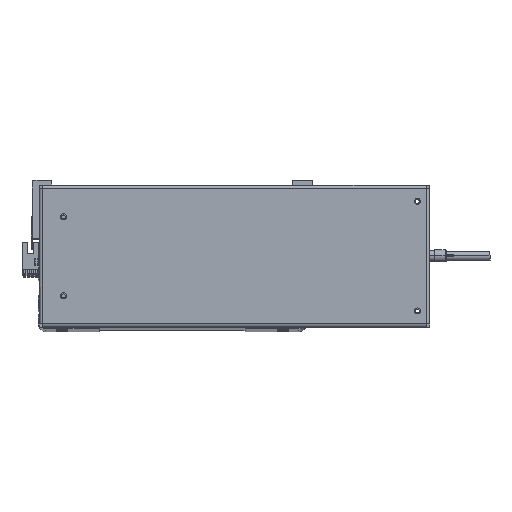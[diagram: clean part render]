
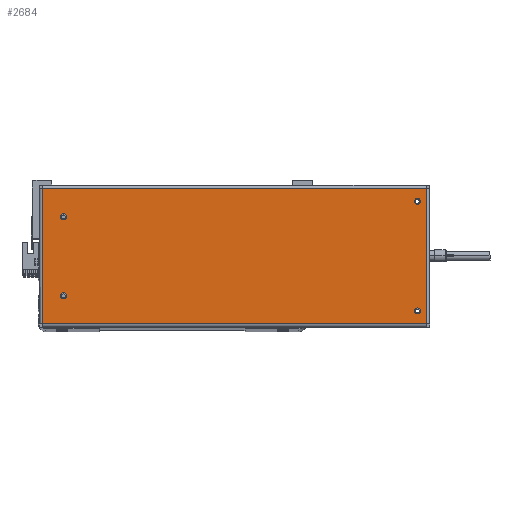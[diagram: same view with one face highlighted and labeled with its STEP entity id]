
A CAD part, top view. The second image highlights one B-rep face of the part: STEP entity #2684.
In plain terms, the highlighted planar face has unit normal (0, 0, 1).
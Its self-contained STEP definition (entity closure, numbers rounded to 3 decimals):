
#650 = VERTEX_POINT ( 'NONE', #1710 ) ;
#911 = EDGE_CURVE ( 'NONE', #33433, #9211, #18792, .T. ) ;
#1363 = EDGE_CURVE ( 'NONE', #10592, #28300, #13742, .T. ) ;
#1710 = CARTESIAN_POINT ( 'NONE',  ( 148., -45., 0. ) ) ;
#2319 = VECTOR ( 'NONE', #16149, 1000. ) ;
#2489 = CARTESIAN_POINT ( 'NONE',  ( -140.5, -32.5, 0. ) ) ;
#2684 = ADVANCED_FACE ( 'NONE', ( #23110, #14609, #5134, #38144, #20121 ), #34714, .F. ) ;
#2988 = ORIENTED_EDGE ( 'NONE', *, *, #16569, .F. ) ;
#3848 = CIRCLE ( 'NONE', #18352, 2.5 ) ;
#4073 = AXIS2_PLACEMENT_3D ( 'NONE', #14366, #33633, #36750 ) ;
#4440 = DIRECTION ( 'NONE',  ( 0., 0., 1. ) ) ;
#4638 = CARTESIAN_POINT ( 'NONE',  ( -140.5, -32.5, 0. ) ) ;
#5134 = FACE_BOUND ( 'NONE', #10259, .T. ) ;
#6297 = LINE ( 'NONE', #10223, #40783 ) ;
#6673 = CARTESIAN_POINT ( 'NONE',  ( 157.7, 58.5, 0. ) ) ;
#6766 = CIRCLE ( 'NONE', #4073, 2.5 ) ;
#7393 = CARTESIAN_POINT ( 'NONE',  ( -138., -32.5, 0. ) ) ;
#8079 = CARTESIAN_POINT ( 'NONE',  ( 150.5, 45., 0. ) ) ;
#8718 = CARTESIAN_POINT ( 'NONE',  ( -138., 32.5, 0. ) ) ;
#9036 = CARTESIAN_POINT ( 'NONE',  ( -143., -32.5, 0. ) ) ;
#9211 = VERTEX_POINT ( 'NONE', #29591 ) ;
#10223 = CARTESIAN_POINT ( 'NONE',  ( -157.6, 55.6, 0. ) ) ;
#10259 = EDGE_LOOP ( 'NONE', ( #32077, #40349 ) ) ;
#10521 = CARTESIAN_POINT ( 'NONE',  ( 148., 45., 0. ) ) ;
#10592 = VERTEX_POINT ( 'NONE', #30200 ) ;
#11452 = EDGE_LOOP ( 'NONE', ( #21698, #23680 ) ) ;
#11742 = VERTEX_POINT ( 'NONE', #19215 ) ;
#11927 = EDGE_CURVE ( 'NONE', #23518, #29620, #31830, .T. ) ;
#12212 = CARTESIAN_POINT ( 'NONE',  ( 153., -45., 0. ) ) ;
#12419 = CIRCLE ( 'NONE', #28520, 2.5 ) ;
#12468 = EDGE_CURVE ( 'NONE', #23743, #16783, #3848, .T. ) ;
#13423 = DIRECTION ( 'NONE',  ( 0., -1., 0. ) ) ;
#13742 = LINE ( 'NONE', #19217, #20239 ) ;
#14366 = CARTESIAN_POINT ( 'NONE',  ( 150.5, -45., 0. ) ) ;
#14469 = DIRECTION ( 'NONE',  ( 0., 0., 1. ) ) ;
#14609 = FACE_BOUND ( 'NONE', #11452, .T. ) ;
#14688 = CARTESIAN_POINT ( 'NONE',  ( 157.6, -55.6, 0. ) ) ;
#14746 = CARTESIAN_POINT ( 'NONE',  ( 150.5, -45., 0. ) ) ;
#16013 = ORIENTED_EDGE ( 'NONE', *, *, #18031, .T. ) ;
#16149 = DIRECTION ( 'NONE',  ( -1., 0., 0. ) ) ;
#16569 = EDGE_CURVE ( 'NONE', #11742, #26777, #35894, .T. ) ;
#16783 = VERTEX_POINT ( 'NONE', #9036 ) ;
#17132 = AXIS2_PLACEMENT_3D ( 'NONE', #8079, #30400, #36128 ) ;
#17273 = EDGE_CURVE ( 'NONE', #16783, #23743, #40861, .T. ) ;
#17456 = EDGE_LOOP ( 'NONE', ( #19655, #20192 ) ) ;
#17633 = CARTESIAN_POINT ( 'NONE',  ( -140.5, 32.5, 0. ) ) ;
#17766 = DIRECTION ( 'NONE',  ( 0., 0., 1. ) ) ;
#17856 = DIRECTION ( 'NONE',  ( 1., 0., 0. ) ) ;
#18031 = EDGE_CURVE ( 'NONE', #9211, #10592, #6297, .T. ) ;
#18352 = AXIS2_PLACEMENT_3D ( 'NONE', #4638, #20655, #17856 ) ;
#18428 = CARTESIAN_POINT ( 'NONE',  ( -143., 32.5, 0. ) ) ;
#18590 = AXIS2_PLACEMENT_3D ( 'NONE', #17633, #17766, #40159 ) ;
#18792 = LINE ( 'NONE', #26088, #2319 ) ;
#18908 = CARTESIAN_POINT ( 'NONE',  ( 157.6, -55.6, 0. ) ) ;
#19215 = CARTESIAN_POINT ( 'NONE',  ( 153., 45., 0. ) ) ;
#19217 = CARTESIAN_POINT ( 'NONE',  ( -157.7, -55.6, 0. ) ) ;
#19655 = ORIENTED_EDGE ( 'NONE', *, *, #12468, .F. ) ;
#20093 = AXIS2_PLACEMENT_3D ( 'NONE', #14746, #14469, #24226 ) ;
#20121 = FACE_OUTER_BOUND ( 'NONE', #31878, .T. ) ;
#20192 = ORIENTED_EDGE ( 'NONE', *, *, #17273, .F. ) ;
#20239 = VECTOR ( 'NONE', #22405, 1000. ) ;
#20655 = DIRECTION ( 'NONE',  ( 0., 0., 1. ) ) ;
#21563 = DIRECTION ( 'NONE',  ( 1., 0., 0. ) ) ;
#21698 = ORIENTED_EDGE ( 'NONE', *, *, #31346, .F. ) ;
#21966 = AXIS2_PLACEMENT_3D ( 'NONE', #37438, #40661, #40394 ) ;
#22105 = DIRECTION ( 'NONE',  ( 0., 1., 0. ) ) ;
#22405 = DIRECTION ( 'NONE',  ( 1., 0., 0. ) ) ;
#23110 = FACE_BOUND ( 'NONE', #17456, .T. ) ;
#23518 = VERTEX_POINT ( 'NONE', #18428 ) ;
#23680 = ORIENTED_EDGE ( 'NONE', *, *, #11927, .F. ) ;
#23743 = VERTEX_POINT ( 'NONE', #7393 ) ;
#24226 = DIRECTION ( 'NONE',  ( 1., 0., 0. ) ) ;
#25227 = DIRECTION ( 'NONE',  ( 0., 0., -1. ) ) ;
#25775 = EDGE_CURVE ( 'NONE', #650, #30610, #30972, .T. ) ;
#25951 = ORIENTED_EDGE ( 'NONE', *, *, #911, .T. ) ;
#26088 = CARTESIAN_POINT ( 'NONE',  ( 157.7, 55.6, 0. ) ) ;
#26748 = DIRECTION ( 'NONE',  ( 1., 0., 0. ) ) ;
#26777 = VERTEX_POINT ( 'NONE', #10521 ) ;
#27730 = DIRECTION ( 'NONE',  ( 0., 0., 1. ) ) ;
#27810 = ORIENTED_EDGE ( 'NONE', *, *, #1363, .T. ) ;
#28300 = VERTEX_POINT ( 'NONE', #14688 ) ;
#28501 = EDGE_LOOP ( 'NONE', ( #2988, #35999 ) ) ;
#28520 = AXIS2_PLACEMENT_3D ( 'NONE', #40179, #4440, #26748 ) ;
#29591 = CARTESIAN_POINT ( 'NONE',  ( -157.6, 55.6, 0. ) ) ;
#29620 = VERTEX_POINT ( 'NONE', #8718 ) ;
#29629 = CARTESIAN_POINT ( 'NONE',  ( 157.6, 55.6, 0. ) ) ;
#30200 = CARTESIAN_POINT ( 'NONE',  ( -157.6, -55.6, 0. ) ) ;
#30400 = DIRECTION ( 'NONE',  ( 0., 0., 1. ) ) ;
#30610 = VERTEX_POINT ( 'NONE', #12212 ) ;
#30972 = CIRCLE ( 'NONE', #20093, 2.5 ) ;
#31346 = EDGE_CURVE ( 'NONE', #29620, #23518, #12419, .T. ) ;
#31423 = EDGE_CURVE ( 'NONE', #28300, #33433, #33386, .T. ) ;
#31830 = CIRCLE ( 'NONE', #18590, 2.5 ) ;
#31878 = EDGE_LOOP ( 'NONE', ( #16013, #27810, #33707, #25951 ) ) ;
#32077 = ORIENTED_EDGE ( 'NONE', *, *, #36333, .F. ) ;
#33386 = LINE ( 'NONE', #18908, #38444 ) ;
#33433 = VERTEX_POINT ( 'NONE', #29629 ) ;
#33633 = DIRECTION ( 'NONE',  ( 0., 0., 1. ) ) ;
#33707 = ORIENTED_EDGE ( 'NONE', *, *, #31423, .T. ) ;
#34714 = PLANE ( 'NONE',  #40743 ) ;
#34850 = DIRECTION ( 'NONE',  ( -1., 0., 0. ) ) ;
#35707 = CIRCLE ( 'NONE', #21966, 2.5 ) ;
#35894 = CIRCLE ( 'NONE', #17132, 2.5 ) ;
#35999 = ORIENTED_EDGE ( 'NONE', *, *, #36381, .F. ) ;
#36128 = DIRECTION ( 'NONE',  ( 1., 0., 0. ) ) ;
#36333 = EDGE_CURVE ( 'NONE', #30610, #650, #6766, .T. ) ;
#36381 = EDGE_CURVE ( 'NONE', #26777, #11742, #35707, .T. ) ;
#36750 = DIRECTION ( 'NONE',  ( 1., 0., 0. ) ) ;
#37438 = CARTESIAN_POINT ( 'NONE',  ( 150.5, 45., 0. ) ) ;
#38144 = FACE_BOUND ( 'NONE', #28501, .T. ) ;
#38444 = VECTOR ( 'NONE', #22105, 1000. ) ;
#39925 = AXIS2_PLACEMENT_3D ( 'NONE', #2489, #27730, #21563 ) ;
#40159 = DIRECTION ( 'NONE',  ( 1., 0., 0. ) ) ;
#40179 = CARTESIAN_POINT ( 'NONE',  ( -140.5, 32.5, 0. ) ) ;
#40349 = ORIENTED_EDGE ( 'NONE', *, *, #25775, .F. ) ;
#40394 = DIRECTION ( 'NONE',  ( 1., 0., 0. ) ) ;
#40661 = DIRECTION ( 'NONE',  ( 0., 0., 1. ) ) ;
#40743 = AXIS2_PLACEMENT_3D ( 'NONE', #6673, #25227, #34850 ) ;
#40783 = VECTOR ( 'NONE', #13423, 1000. ) ;
#40861 = CIRCLE ( 'NONE', #39925, 2.5 ) ;
